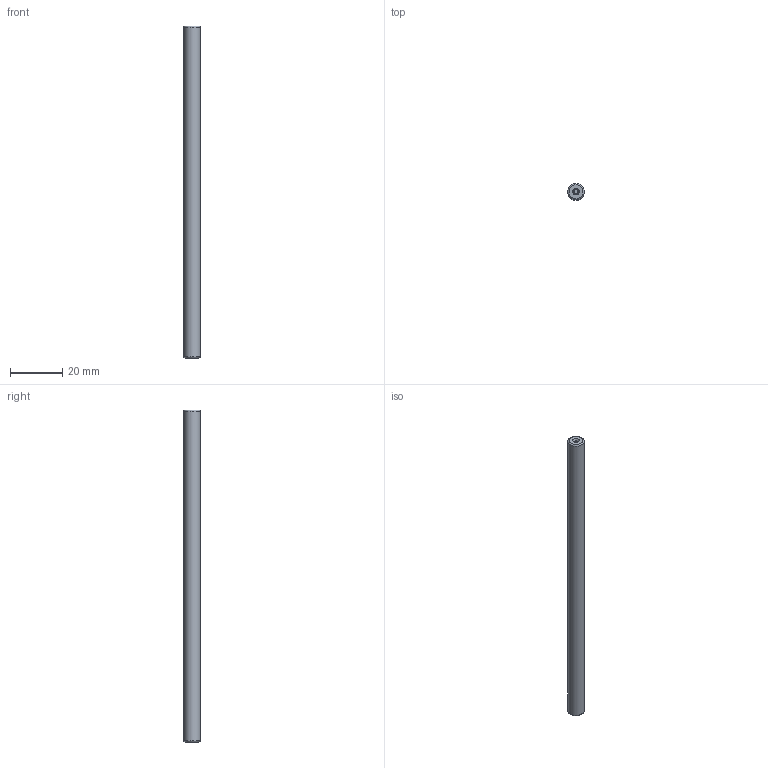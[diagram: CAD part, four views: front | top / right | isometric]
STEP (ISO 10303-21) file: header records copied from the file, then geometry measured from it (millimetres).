
FILE_DESCRIPTION(/* description */ (''),/* implementation_level */ '2;1');
FILE_NAME(/* name */ 'LM1247-060-Rod.stp',/* time_stamp */ '2017-09-06T14:00:45+02:00',/* author */ ('DR. FRITZ FAULHABER GmbH & Co. KG'),/* organization */ ('DR. FRITZ FAULHABER GmbH & Co. KG'),/* preprocessor_version */ 'ST-DEVELOPER v16',/* originating_system */ 'SIEMENS PLM Software NX 10.0',/* authorisation */ '');
FILE_SCHEMA (('AUTOMOTIVE_DESIGN { 1 0 10303 214 3 1 1 1 }'));
Length unit declared in the file: millimetre
Products named in the file (1): Alle_Motoren
Bounding box: 6.31 x 6.31 x 127 mm (x, y, z)
Volume: 3955.3 mm3; surface area: 2599.5 mm2
Topology: 1 solids, 1 shells, 11 faces, 20 edges, 13 vertices
Faces by surface type: plane 4, cylinder 3, cone 2, torus 2
Full cylindrical faces by diameter (mm): 1.6 x2, 6.31 x1
Entity records: 238 total; most frequent: DIRECTION 44, CARTESIAN_POINT 32, AXIS2_PLACEMENT_3D 22, EDGE_LOOP 20, ORIENTED_EDGE 20, FACE_BOUND 18, ADVANCED_FACE 11, VERTEX_POINT 10
